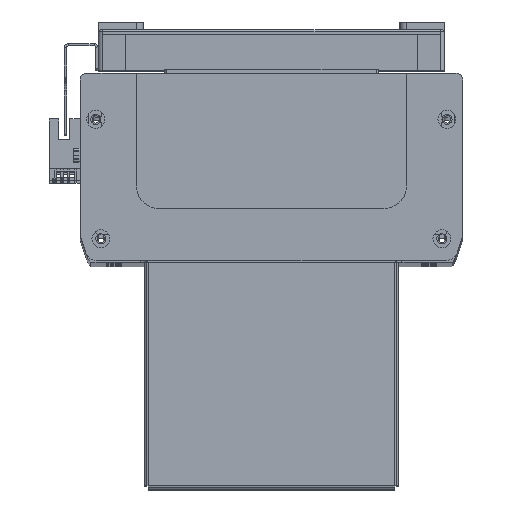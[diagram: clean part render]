
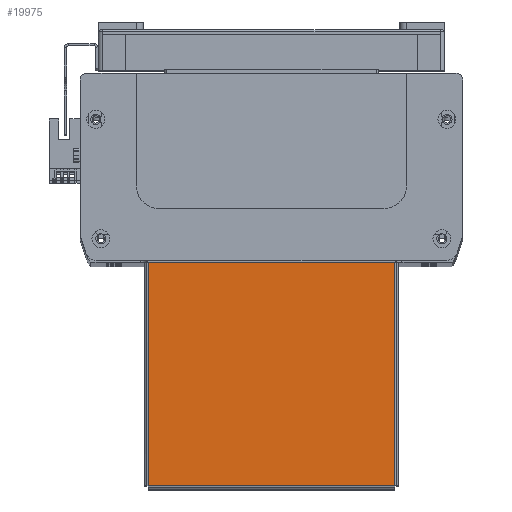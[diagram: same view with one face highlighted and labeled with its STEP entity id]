
A CAD part, top view. The second image highlights one B-rep face of the part: STEP entity #19975.
In plain terms, the highlighted planar face has unit normal (0, 0, 1).
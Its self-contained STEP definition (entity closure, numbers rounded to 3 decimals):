
#782 = DIRECTION ( 'NONE',  ( 1., 0., 0. ) ) ;
#787 = PLANE ( 'NONE',  #47876 ) ;
#824 = DIRECTION ( 'NONE',  ( 0., 0., 1. ) ) ;
#833 = CARTESIAN_POINT ( 'NONE',  ( 0., 0., 0. ) ) ;
#5062 = FACE_OUTER_BOUND ( 'NONE', #47097, .T. ) ;
#6646 = CARTESIAN_POINT ( 'NONE',  ( -54.763, 50., 0. ) ) ;
#6652 = CARTESIAN_POINT ( 'NONE',  ( -54.763, -49.263, 0. ) ) ;
#6687 = CARTESIAN_POINT ( 'NONE',  ( 54.763, 50., 0. ) ) ;
#6688 = CARTESIAN_POINT ( 'NONE',  ( 54.763, -49.263, 0. ) ) ;
#19975 = ADVANCED_FACE ( 'NONE', ( #5062 ), #787, .T. ) ;
#22585 = ORIENTED_EDGE ( 'NONE', *, *, #35089, .T. ) ;
#22586 = ORIENTED_EDGE ( 'NONE', *, *, #35077, .T. ) ;
#22616 = ORIENTED_EDGE ( 'NONE', *, *, #35092, .T. ) ;
#22643 = ORIENTED_EDGE ( 'NONE', *, *, #35121, .T. ) ;
#25316 = DIRECTION ( 'NONE',  ( 1., 0., 0. ) ) ;
#25395 = CARTESIAN_POINT ( 'NONE',  ( -54.793, -49.263, 0. ) ) ;
#25464 = CARTESIAN_POINT ( 'NONE',  ( 54.763, -49.293, 0. ) ) ;
#25515 = DIRECTION ( 'NONE',  ( 0., -1., 0. ) ) ;
#25525 = DIRECTION ( 'NONE',  ( 0., 1., 0. ) ) ;
#25536 = CARTESIAN_POINT ( 'NONE',  ( -54.763, 50., 0. ) ) ;
#25770 = CARTESIAN_POINT ( 'NONE',  ( -55.5, 50., 0. ) ) ;
#25820 = DIRECTION ( 'NONE',  ( -1., 0., 0. ) ) ;
#28036 = VECTOR ( 'NONE', #25525, 1000. ) ;
#28060 = LINE ( 'NONE', #25395, #28080 ) ;
#28065 = LINE ( 'NONE', #25464, #28036 ) ;
#28080 = VECTOR ( 'NONE', #25316, 1000. ) ;
#28083 = VECTOR ( 'NONE', #25515, 1000. ) ;
#28088 = LINE ( 'NONE', #25536, #28083 ) ;
#28136 = LINE ( 'NONE', #25770, #28141 ) ;
#28141 = VECTOR ( 'NONE', #25820, 1000. ) ;
#35077 = EDGE_CURVE ( 'NONE', #43151, #43049, #28060, .T. ) ;
#35089 = EDGE_CURVE ( 'NONE', #43049, #43105, #28065, .T. ) ;
#35092 = EDGE_CURVE ( 'NONE', #43112, #43151, #28088, .T. ) ;
#35121 = EDGE_CURVE ( 'NONE', #43105, #43112, #28136, .T. ) ;
#43049 = VERTEX_POINT ( 'NONE', #6688 ) ;
#43105 = VERTEX_POINT ( 'NONE', #6687 ) ;
#43112 = VERTEX_POINT ( 'NONE', #6646 ) ;
#43151 = VERTEX_POINT ( 'NONE', #6652 ) ;
#47097 = EDGE_LOOP ( 'NONE', ( #22616, #22586, #22585, #22643 ) ) ;
#47876 = AXIS2_PLACEMENT_3D ( 'NONE', #833, #824, #782 ) ;
